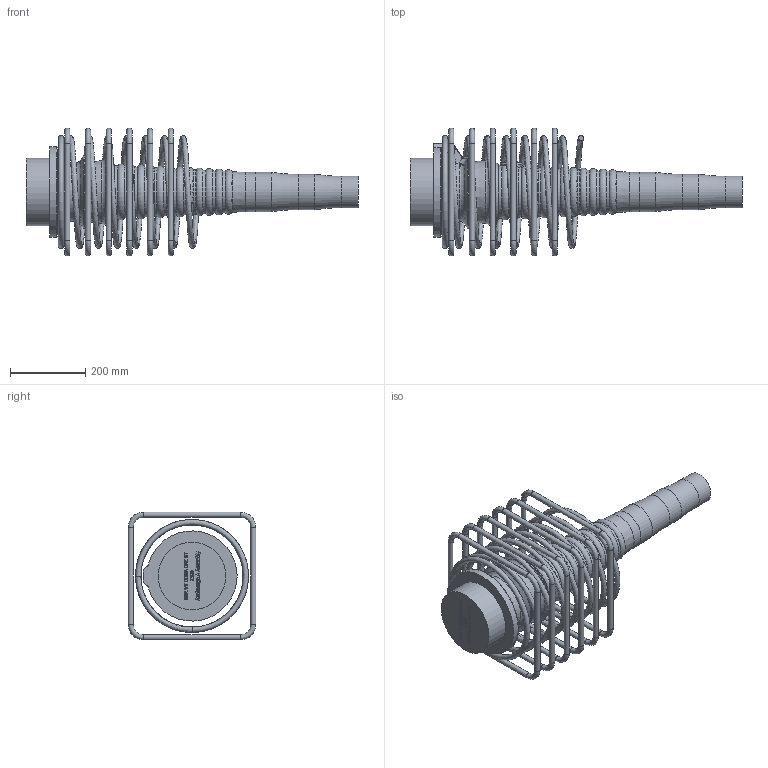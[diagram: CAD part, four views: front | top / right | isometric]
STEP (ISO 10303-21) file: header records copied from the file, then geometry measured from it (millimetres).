
FILE_DESCRIPTION(/* description */ (''),/* implementation_level */ '2;1');
FILE_NAME(/* name */ 'BBR VT CONA CMI BT 1306_Anchorage A Assembly_CS-34,28.stp',/* time_stamp */ '2025-05-09T07:48:24+02:00',/* author */ ('tk'),/* organization */ (''),/* preprocessor_version */ 'ST-DEVELOPER v20',/* originating_system */ 'Autodesk Inventor 2024',/* authorisation */ '');
FILE_SCHEMA (('AUTOMOTIVE_DESIGN { 1 0 10303 214 3 1 1 }'));
Length unit declared in the file: millimetre
Products named in the file (1): BBR VT CONA CMI BT 1306_Anchorage A Assembly_CS-34,28
Bounding box: 883.13 x 340 x 340 mm (x, y, z)
Volume: 14728892.7 mm3; surface area: 1128779.6 mm2
Topology: 8 solids, 8 shells, 806 faces, 2159 edges, 1413 vertices
Faces by surface type: plane 326, bspline 326, torus 80, cylinder 47, cone 17, sphere 10
Full cylindrical faces by diameter (mm): 14 x24, 34 x1, 57 x1, 84 x1, 94 x1, 104 x1, 180 x1, 192.529 x1, 197.205 x1
Entity records: 32956 total; most frequent: CARTESIAN_POINT 13832, ORIENTED_EDGE 4314, DIRECTION 2843, EDGE_CURVE 2157, VERTEX_POINT 1413, LINE 1133, VECTOR 1133, EDGE_LOOP 866
